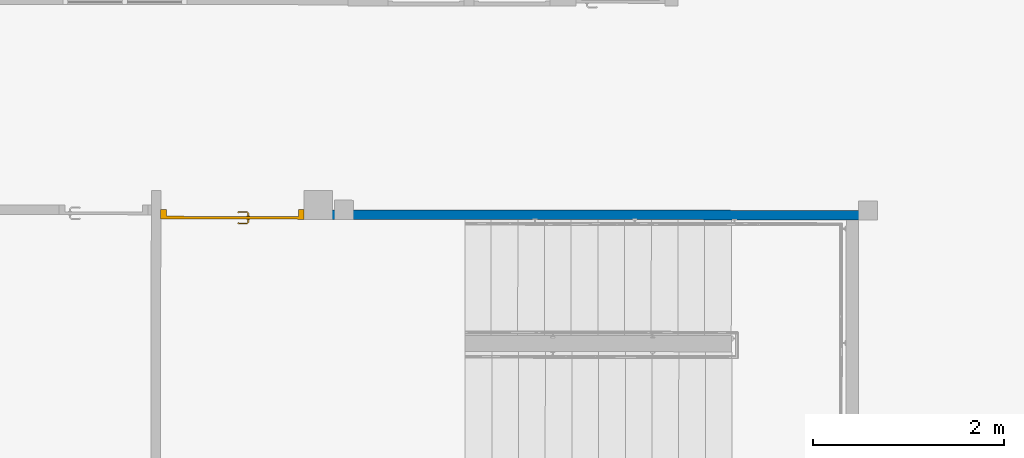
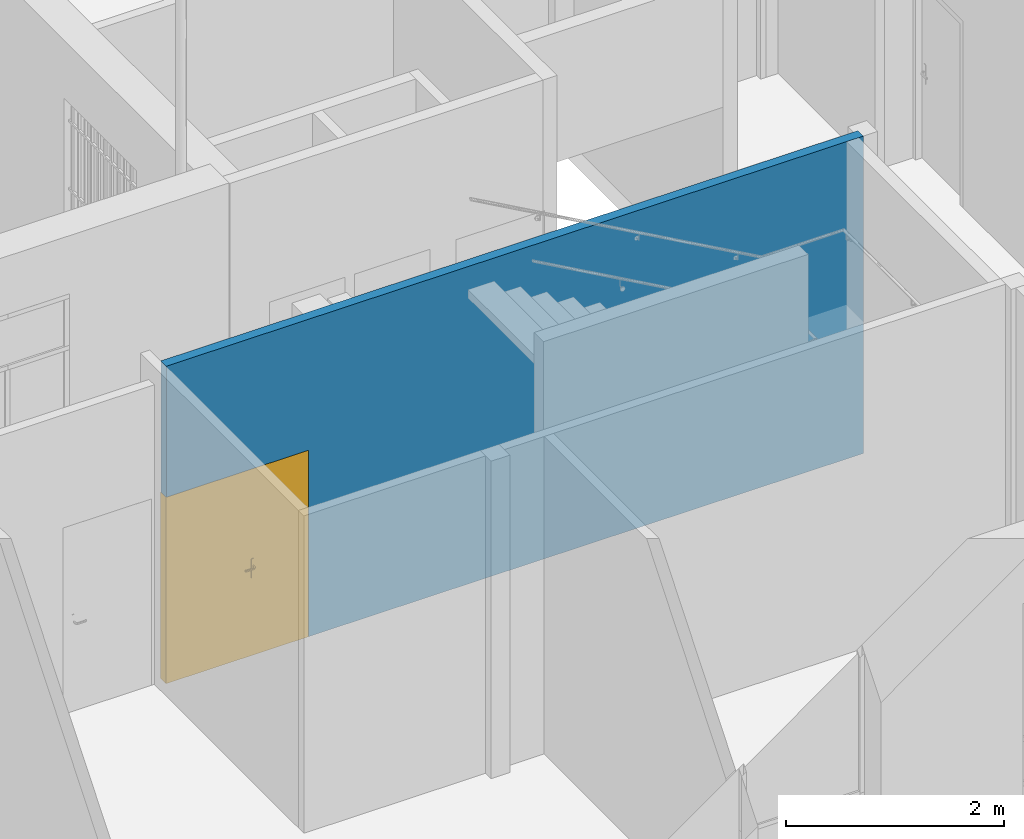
# One storey, part 70 of 101: 1 door, 1 wall, 1 opening.
"""IFC2X3 building model written with IfcOpenShell, lengths in metres."""

from ifc_helpers import new_model, entity, si_unit, converted_unit, derived_unit, direction, frame, frame_2d, origin, place, context, subcontext, project, spatial, rectangle, extrude, faceted_brep, source, transform, mapped, material, material_list, layer, layer_set, layer_usage, type_object, type_shapes, element, fill, save


model = new_model("IFC2X3")

# Units and contexts
model_context = context("Model", 3, precision=1e-05, world=origin(), true_north=direction((6.123233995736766e-17, 1.0)))
body_context = subcontext(model_context, "Body", "Model", "MODEL_VIEW")
ifc_project = project(units=[si_unit("LENGTHUNIT", "METRE"), si_unit("AREAUNIT", "SQUARE_METRE"), converted_unit("PLANEANGLEUNIT", "DEGREE", entity("IfcPlaneAngleMeasure", 0.017453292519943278), si_unit("PLANEANGLEUNIT", "RADIAN"), dimensions=[0, 0, 0, 0, 0, 0, 0]), derived_unit("THERMALTRANSMITTANCEUNIT", [(si_unit("MASSUNIT", "GRAM", prefix="KILO"), 1), (si_unit("THERMODYNAMICTEMPERATUREUNIT", "KELVIN"), -1), (si_unit("TIMEUNIT", "SECOND"), -3)])], contexts=[model_context])

# Site, building, storey
site_placement = place(None, frame((1253.6752467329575, 2072.143113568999, 91.49999999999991), z_axis=(0.0, 0.0, 1.0), x_axis=(0.7237211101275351, 0.6900925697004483, 0.0)))
site = spatial("IfcSite", under=ifc_project, at=site_placement, Name="Surface", CompositionType="ELEMENT")
building_placement = place(site_placement, origin())
building = spatial("IfcBuilding", under=site, at=building_placement, CompositionType="ELEMENT")
storey_placement = place(building_placement, origin())
storey = spatial("IfcBuildingStorey", under=building, at=storey_placement, Name="0- Rdc", CompositionType="ELEMENT", Elevation=-5.764692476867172e-13)

# Wall, opening, door
ifc_material_1 = material(Name="OMD_Béton blanc")
ifc_layer = layer(ifc_material_1, 0.1)
ifc_layer_set = layer_set([ifc_layer], Name="Mur de base:MUR 10")
ifc_layer_usage = layer_usage(ifc_layer_set, "AXIS2", "NEGATIVE", 0.05)
wall_type = type_object("IfcWallType", Name="Mur de base:MUR 10", PredefinedType="STANDARD", material=ifc_layer_set)
wall_placement = place(storey_placement, frame((172.3237016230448, -14.136047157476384, 0.0), z_axis=(0.0, 0.0, 1.0), x_axis=(0.7228702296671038, -0.6909838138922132, 0.0)))
wall = element("IfcWallStandardCase", 1, at=wall_placement, inside=storey, type_object=wall_type, material=ifc_layer_usage, Name="Mur de base:MUR 10", ObjectType="Mur de base:MUR 10", context=body_context, shape_type="SweptSolid", body=[
    extrude(rectangle(XDim=7.370000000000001, YDim=0.1000000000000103, at=frame_2d((3.6850000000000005, -3.3410774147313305e-15), x_axis=(-1.0, 0.0))), origin(), (0.0, 0.0, 1.0), 3.5499999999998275),
])
opening_placement = place(wall_placement, frame((1.502499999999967, 0.05000000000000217, 0.0)))
opening = element("IfcOpeningElement", 2, at=opening_placement, cuts=wall, Name="OMD_Porte 2V tunnel:136x204:1", ObjectType="Opening", context=body_context, shape_type="SweptSolid", body=[
    extrude(rectangle(XDim=2.085, YDim=1.5049999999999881, at=frame_2d((1.0425, 0.7524999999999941), x_axis=(1.0, 0.0))), frame((0.0, 0.0, 0.0), z_axis=(0.0, -1.0, 0.0), x_axis=(0.0, 0.0, 1.0)), (0.0, 0.0, 1.0), 0.1),
])
ifc_material_2 = material(Name="<Unnamed>")
ifc_material_3 = material(Name="Porte - Poignée")
ifc_material_4 = material(Name="OMD_Bois")
ifc_material_list = material_list([ifc_material_2, ifc_material_3, ifc_material_4])
door_style = type_object("IfcDoorStyle", Name="OMD_Porte 2V tunnel:136x204", ConstructionType="NOTDEFINED", OperationType="NOTDEFINED", ParameterTakesPrecedence=False, Sizeable=False, material=ifc_material_list)
shared_shape = source(origin(), body_context, "Body", "Brep", [
    faceted_brep([(1.4599999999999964, 0.03000000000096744, 0.0), (1.4599999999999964, 0.0, 0.0), (0.9749999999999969, 0.0, 0.0), (0.9749999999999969, 0.03000000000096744, 0.0), (1.4599999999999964, 0.03000000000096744, 2.04), (1.4599999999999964, 0.0, 2.04), (0.9749999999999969, 0.0, 2.04), (0.9749999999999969, 0.03000000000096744, 2.04)], [[[0, 1, 2, 3]], [[4, 5, 1, 0]], [[5, 6, 2, 1]], [[6, 7, 3, 2]], [[7, 4, 0, 3]], [[4, 7, 6, 5]]]),
    faceted_brep([(0.9220252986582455, 0.03500000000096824, 1.0077804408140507), (0.9179747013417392, 0.03500000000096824, 1.007780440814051), (0.913999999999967, 0.03500000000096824, 1.00699999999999), (0.913999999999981, 0.03500000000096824, 0.9930000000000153), (0.9179747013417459, 0.03500000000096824, 0.9922195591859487), (0.922025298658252, 0.03500000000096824, 0.9922195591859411), (0.9260000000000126, 0.03500000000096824, 0.9929999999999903), (0.9260000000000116, 0.03500000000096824, 1.006999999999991), (0.913999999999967, 0.05748520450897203, 1.00699999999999), (0.913999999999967, 0.057485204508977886, 0.9930000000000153), (0.917974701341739, 0.05913157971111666, 1.007780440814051), (0.9220252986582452, 0.0608093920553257, 1.0077804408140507), (0.9058389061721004, 0.07699578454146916, 1.0077804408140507), (0.9041610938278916, 0.07294518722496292, 1.007780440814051), (0.8207931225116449, 0.07294518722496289, 1.0077804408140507), (0.8191153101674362, 0.07699578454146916, 1.0077804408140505), (0.8114510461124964, 0.06933152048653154, 1.0077804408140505), (0.8143152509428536, 0.06646731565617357, 1.0077804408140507), (0.9260000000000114, 0.06245576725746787, 1.006999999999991), (0.9260000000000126, 0.06245576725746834, 0.9929999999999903), (0.922025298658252, 0.060809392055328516, 0.9922195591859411), (0.9179747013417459, 0.05913157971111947, 0.9922195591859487), (0.9041610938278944, 0.07294518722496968, 0.9922195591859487), (0.9058389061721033, 0.0769957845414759, 0.9922195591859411), (0.8191153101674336, 0.07699578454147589, 0.9922195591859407), (0.820793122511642, 0.07294518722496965, 0.9922195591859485), (0.814315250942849, 0.0664673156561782, 0.9922195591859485), (0.8114510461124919, 0.06933152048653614, 0.9922195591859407), (0.9025147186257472, 0.06897048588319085, 1.00699999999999), (0.9025147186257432, 0.06897048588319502, 0.9930000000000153), (0.9074852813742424, 0.08097048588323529, 1.006999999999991), (0.907485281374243, 0.0809704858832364, 0.9929999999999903), (0.8624771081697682, 0.06897048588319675, 1.0069999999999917), (0.8224394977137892, 0.06897048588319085, 1.0069999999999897), (0.8224394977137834, 0.06897048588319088, 0.9930000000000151), (0.8624771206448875, 0.0689704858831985, 0.9930000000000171), (0.862477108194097, 0.07512492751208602, 1.0078781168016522), (0.8573994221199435, 0.0809704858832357, 1.0069999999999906), (0.8174689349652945, 0.08097048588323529, 1.0069999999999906), (0.8675547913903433, 0.08097048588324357, 0.9929999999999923), (0.8174689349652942, 0.0809704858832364, 0.99299999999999), (0.8624771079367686, 0.07512492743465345, 0.9921218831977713), (0.8086405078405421, 0.07214205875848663, 1.0069999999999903), (0.808640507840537, 0.07214205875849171, 0.9929999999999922), (0.8171257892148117, 0.06365677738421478, 0.9930000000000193), (0.8171257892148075, 0.06365677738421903, 1.0069999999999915)], [[[0, 1, 2, 3, 4, 5, 6, 7]], [[8, 9, 3, 2]], [[1, 10, 8, 2]], [[1, 0, 11, 12, 13, 10]], [[14, 15, 16, 17]], [[7, 18, 11, 0]], [[18, 7, 6, 19]], [[6, 5, 20, 19]], [[5, 4, 21, 22, 23, 20]], [[24, 25, 26, 27]], [[4, 3, 9, 21]], [[28, 29, 9, 8]], [[8, 10, 13, 28]], [[18, 30, 12, 11]], [[31, 30, 18, 19]], [[19, 20, 23, 31]], [[21, 9, 29, 22]], [[29, 28, 32, 33, 34, 35]], [[36, 32, 13]], [[37, 38, 15]], [[37, 12, 30]], [[36, 12, 37]], [[14, 32, 36]], [[36, 15, 14]], [[28, 13, 32]], [[32, 14, 33]], [[12, 36, 13]], [[15, 36, 37]], [[30, 31, 39, 40, 38, 37]], [[23, 41, 39]], [[24, 39, 41]], [[39, 31, 23]], [[39, 24, 40]], [[22, 35, 41]], [[41, 23, 22]], [[41, 35, 25]], [[35, 22, 29]], [[34, 25, 35]], [[24, 41, 25]], [[17, 16, 42, 43, 27, 26, 44, 45]], [[45, 44, 34, 33]], [[33, 14, 17, 45]], [[15, 38, 42, 16]], [[43, 42, 38, 40]], [[24, 27, 43, 40]], [[34, 44, 26, 25]]]),
    faceted_brep([(0.9179747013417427, -0.004999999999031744, 1.007780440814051), (0.9220252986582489, -0.004999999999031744, 1.0077804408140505), (0.9260000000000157, -0.004999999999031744, 1.0069999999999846), (0.9260000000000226, -0.004999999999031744, 0.9929999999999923), (0.9220252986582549, -0.004999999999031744, 0.992219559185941), (0.9179747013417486, -0.004999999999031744, 0.9922195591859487), (0.9139999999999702, -0.004999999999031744, 0.9930000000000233), (0.9139999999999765, -0.004999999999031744, 1.006999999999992), (0.9220252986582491, -0.031004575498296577, 1.0077804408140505), (0.9260000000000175, -0.032650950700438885, 1.0069999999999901), (0.9179747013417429, -0.0293267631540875, 1.007780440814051), (0.9042986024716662, -0.043002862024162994, 1.007780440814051), (0.9059764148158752, -0.047053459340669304, 1.0077804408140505), (0.8191424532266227, -0.047053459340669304, 1.0077804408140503), (0.8208202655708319, -0.043002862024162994, 1.0077804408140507), (0.8143423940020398, -0.03652499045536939, 1.0077804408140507), (0.8114781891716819, -0.03938919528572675, 1.0077804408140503), (0.9139999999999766, -0.027680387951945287, 1.006999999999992), (0.9139999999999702, -0.02768038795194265, 0.9930000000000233), (0.9179747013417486, -0.029326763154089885, 0.9922195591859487), (0.9220252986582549, -0.031004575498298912, 0.992219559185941), (0.9059764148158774, -0.04705345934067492, 0.992219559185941), (0.9042986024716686, -0.043002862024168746, 0.9922195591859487), (0.8208202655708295, -0.04300286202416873, 0.9922195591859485), (0.8191424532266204, -0.04705345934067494, 0.9922195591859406), (0.8114781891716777, -0.0393891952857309, 0.9922195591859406), (0.8143423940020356, -0.0365249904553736, 0.9922195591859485), (0.9260000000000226, -0.03265095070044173, 0.9929999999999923), (0.9076227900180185, -0.05102816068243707, 1.0069999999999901), (0.9026522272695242, -0.03902816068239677, 1.006999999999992), (0.9026522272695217, -0.03902816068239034, 0.9930000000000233), (0.9076227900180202, -0.051028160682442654, 0.9929999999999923), (0.8625594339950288, -0.045182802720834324, 1.0078781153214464), (0.8676923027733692, -0.051028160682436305, 1.0069999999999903), (0.8174960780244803, -0.05102816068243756, 1.00699999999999), (0.8625594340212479, -0.039028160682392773, 1.0069999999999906), (0.8224666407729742, -0.03902816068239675, 1.0069999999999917), (0.8625594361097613, -0.03902816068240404, 0.9930000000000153), (0.8224666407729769, -0.03902816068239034, 0.9930000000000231), (0.8625594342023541, -0.0451828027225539, 0.9921218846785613), (0.8574265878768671, -0.051028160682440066, 0.9929999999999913), (0.8174960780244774, -0.051028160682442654, 0.9929999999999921), (0.8171529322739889, -0.03371445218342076, 0.9930000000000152), (0.808667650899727, -0.042199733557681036, 0.9929999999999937), (0.8086676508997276, -0.04219973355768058, 1.0069999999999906), (0.8171529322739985, -0.03371445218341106, 1.0069999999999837)], [[[0, 1, 2, 3, 4, 5, 6, 7]], [[2, 1, 8, 9]], [[1, 0, 10, 11, 12, 8]], [[13, 14, 15, 16]], [[0, 7, 17, 10]], [[18, 17, 7, 6]], [[5, 19, 18, 6]], [[5, 4, 20, 21, 22, 19]], [[23, 24, 25, 26]], [[3, 27, 20, 4]], [[9, 27, 3, 2]], [[9, 8, 12, 28]], [[10, 17, 29, 11]], [[30, 29, 17, 18]], [[18, 19, 22, 30]], [[20, 27, 31, 21]], [[28, 31, 27, 9]], [[12, 32, 33]], [[13, 33, 32]], [[33, 28, 12]], [[33, 13, 34]], [[11, 35, 32]], [[32, 12, 11]], [[32, 35, 14]], [[35, 11, 29]], [[36, 14, 35]], [[13, 32, 14]], [[29, 30, 37, 38, 36, 35]], [[39, 37, 22]], [[40, 41, 24]], [[40, 21, 31]], [[39, 21, 40]], [[23, 37, 39]], [[39, 24, 23]], [[30, 22, 37]], [[37, 23, 38]], [[21, 39, 22]], [[24, 39, 40]], [[31, 28, 33, 34, 41, 40]], [[42, 26, 25, 43, 44, 16, 15, 45]], [[13, 16, 44, 34]], [[36, 45, 15, 14]], [[42, 45, 36, 38]], [[38, 23, 26, 42]], [[24, 41, 43, 25]], [[44, 43, 41, 34]]]),
    faceted_brep([(0.9199999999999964, 0.030000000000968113, 0.8646410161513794), (0.930352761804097, 0.03000000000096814, 0.866003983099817), (0.939999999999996, 0.030000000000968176, 0.8700000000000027), (0.9399999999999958, 0.030000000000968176, 1.0800000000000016), (0.930352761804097, 0.03000000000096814, 1.0839960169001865), (0.9199999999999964, 0.030000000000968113, 1.0853589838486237), (0.9096472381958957, 0.03000000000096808, 1.0839960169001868), (0.8999999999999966, 0.030000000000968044, 1.0800000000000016), (0.8999999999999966, 0.030000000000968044, 0.8700000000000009), (0.9096472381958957, 0.03000000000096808, 0.8660039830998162), (0.9199999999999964, 0.03500000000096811, 1.0853589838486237), (0.930352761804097, 0.035000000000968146, 1.0839960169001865), (0.9399999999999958, 0.03500000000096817, 1.0800000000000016), (0.9399999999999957, 0.03500000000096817, 0.8700000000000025), (0.930352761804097, 0.035000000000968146, 0.866003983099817), (0.9199999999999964, 0.03500000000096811, 0.8646410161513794), (0.9096472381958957, 0.035000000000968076, 0.8660039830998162), (0.8999999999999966, 0.03500000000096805, 0.8700000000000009), (0.8999999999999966, 0.03500000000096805, 1.0800000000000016), (0.9096472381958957, 0.035000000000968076, 1.0839960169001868)], [[[0, 1, 2, 3, 4, 5, 6, 7, 8, 9]], [[10, 11, 12, 13, 14, 15, 16, 17, 18, 19]], [[6, 19, 18, 7]], [[5, 10, 19, 6]], [[4, 11, 10, 5]], [[4, 3, 12, 11]], [[12, 3, 2, 13]], [[1, 14, 13, 2]], [[0, 15, 14, 1]], [[9, 16, 15, 0]], [[9, 8, 17, 16]], [[17, 8, 7, 18]]]),
    faceted_brep([(0.9199999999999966, -0.004999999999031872, 0.8646410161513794), (0.9303527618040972, -0.004999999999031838, 0.8660039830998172), (0.9399999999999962, -0.004999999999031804, 0.8700000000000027), (0.9399999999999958, -0.004999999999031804, 1.0800000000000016), (0.9303527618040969, -0.004999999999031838, 1.0839960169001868), (0.9199999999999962, -0.004999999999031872, 1.0853589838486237), (0.9096472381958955, -0.004999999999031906, 1.0839960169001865), (0.8999999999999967, -0.004999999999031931, 1.0800000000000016), (0.8999999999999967, -0.004999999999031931, 0.8700000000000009), (0.9096472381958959, -0.004999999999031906, 0.8660039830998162), (0.9399999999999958, 0.0, 1.0800000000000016), (0.939999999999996, 0.0, 0.8700000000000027), (0.9303527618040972, 0.0, 0.8660039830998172), (0.9199999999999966, 0.0, 0.8646410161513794), (0.9096472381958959, 0.0, 0.8660039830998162), (0.8999999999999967, 0.0, 0.8700000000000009), (0.8999999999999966, 0.0, 1.0800000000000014), (0.9096472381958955, 0.0, 1.0839960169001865), (0.9199999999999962, 0.0, 1.0853589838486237), (0.9303527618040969, 0.0, 1.0839960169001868)], [[[0, 1, 2, 3, 4, 5, 6, 7, 8, 9]], [[10, 11, 12, 13, 14, 15, 16, 17, 18, 19]], [[1, 12, 11, 2]], [[0, 13, 12, 1]], [[9, 14, 13, 0]], [[9, 8, 15, 14]], [[15, 8, 7, 16]], [[6, 17, 16, 7]], [[5, 18, 17, 6]], [[4, 19, 18, 5]], [[4, 3, 10, 19]], [[10, 3, 2, 11]]]),
    faceted_brep([(0.9750000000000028, 0.03000000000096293, 0.0), (0.9750000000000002, 0.0, 0.0), (0.04500000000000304, 0.0, 0.0), (0.04500000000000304, 0.030000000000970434, 0.0), (0.9750000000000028, 0.03000000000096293, 2.04), (0.9750000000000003, 0.0, 2.04), (0.04500000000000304, 0.0, 2.04), (0.04500000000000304, 0.030000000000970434, 2.04)], [[[0, 1, 2, 3]], [[4, 5, 1, 0]], [[5, 6, 2, 1]], [[6, 7, 3, 2]], [[7, 4, 0, 3]], [[4, 7, 6, 5]]]),
    faceted_brep([(1.5049999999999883, 0.0, 0.0), (1.4599999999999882, 0.0, 0.0), (1.4599999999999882, 0.030000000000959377, 0.0), (1.4449999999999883, 0.03000000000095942, 0.0), (1.4449999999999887, 0.10000000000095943, 0.0), (1.5049999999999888, 0.10000000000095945, 0.0), (1.5049999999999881, 0.0, 2.0849999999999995), (0.0, 0.0, 2.0849999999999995), (0.0, 0.0, 0.0), (0.04500000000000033, 0.0, 0.0), (0.045000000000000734, 0.0, 2.0399999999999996), (1.4599999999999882, 0.0, 2.039999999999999), (1.4599999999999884, 0.030000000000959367, 2.0399999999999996), (0.045000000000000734, 0.03000000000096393, 2.039999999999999), (0.045000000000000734, 0.030000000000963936, 0.0), (0.060000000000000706, 0.0300000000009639, 0.0), (0.060000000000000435, 0.0300000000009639, 2.0249999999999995), (1.4449999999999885, 0.030000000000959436, 2.0249999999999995), (1.4449999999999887, 0.10000000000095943, 2.0249999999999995), (0.060000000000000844, 0.10000000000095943, 2.0249999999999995), (0.060000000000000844, 0.10000000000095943, 0.0), (0.0, 0.1000000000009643, 0.0), (0.0, 0.1000000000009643, 2.0849999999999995), (1.5049999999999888, 0.10000000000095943, 2.0849999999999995)], [[[0, 1, 2, 3, 4, 5]], [[1, 0, 6, 7, 8, 9, 10, 11]], [[2, 1, 11, 12]], [[3, 2, 12, 13, 14, 15, 16, 17]], [[4, 3, 17, 18]], [[5, 4, 18, 19, 20, 21, 22, 23]], [[0, 5, 23, 6]], [[7, 22, 21, 8]], [[8, 21, 20, 15, 14, 9]], [[13, 10, 9, 14]], [[19, 16, 15, 20]], [[12, 11, 10, 13]], [[18, 17, 16, 19]], [[6, 23, 22, 7]]]),
])
type_shapes(door_style, [shared_shape])
door_placement = place(opening_placement, frame((-1.504999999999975, -0.10000000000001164, 0.0)))
door = element("IfcDoor", 3, at=door_placement, inside=storey, type_object=door_style, material=ifc_material_list, Name="OMD_Porte 2V tunnel:136x204", ObjectType="OMD_Porte 2V tunnel:136x204", OverallHeight=2.085, OverallWidth=1.5050000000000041, context=body_context, shape_type="MappedRepresentation", body=[
    mapped(shared_shape, transform((0.0, 0.0, 0.0), scale=1.0)),
])
fill(opening, door)

save(model, "model.ifc")
